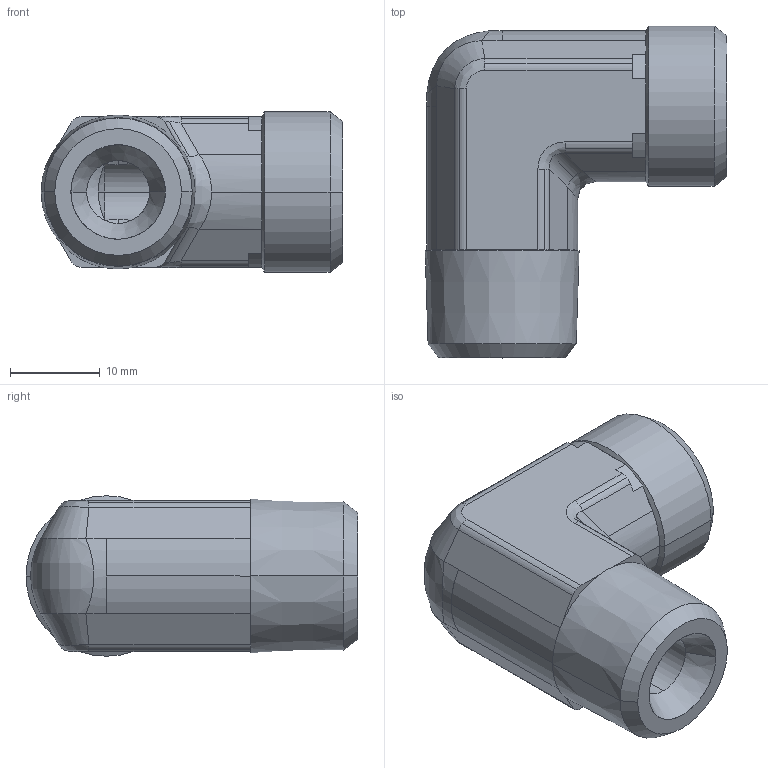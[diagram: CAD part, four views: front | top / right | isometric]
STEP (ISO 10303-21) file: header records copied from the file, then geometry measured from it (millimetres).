
FILE_DESCRIPTION((''),'2;1');
FILE_NAME('102016.stp','2007-10-30T16:28:04',(''),(''),'AutoCAD STEP 2000i','AutoCAD 2000i',', , ');
FILE_SCHEMA(('CONFIG_CONTROL_DESIGN'));
Length unit declared in the file: millimetre
Products named in the file (2): 102016.0; 3090#0
Assembly tree (1 placements, depth 2):
  102016.0
    3090#0
Bounding box: 33.56 x 36.92 x 17.85 mm (x, y, z)
Volume: 9769.2 mm3; surface area: 4408.8 mm2
Topology: 1 solids, 1 shells, 112 faces, 262 edges, 153 vertices
Faces by surface type: cylinder 46, plane 29, cone 23, bspline 14
Entity records: 4046 total; most frequent: CARTESIAN_POINT 1367, DIRECTION 577, ORIENTED_EDGE 524, EDGE_CURVE 262, AXIS2_PLACEMENT_3D 235, VERTEX_POINT 153, CIRCLE 117, EDGE_LOOP 115
